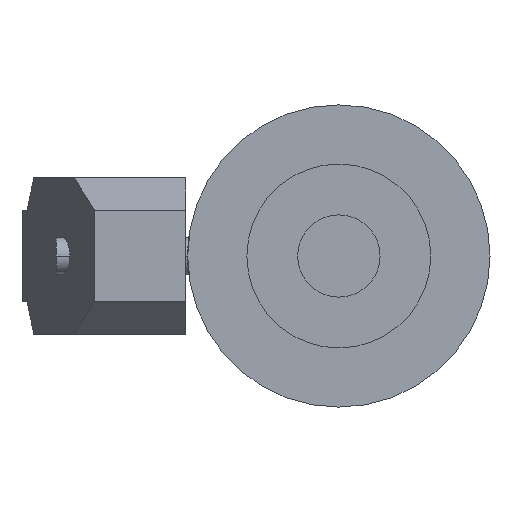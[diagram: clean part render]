
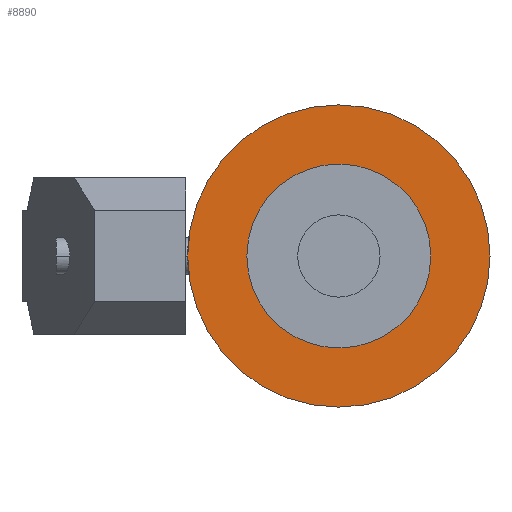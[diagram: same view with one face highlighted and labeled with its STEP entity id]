
A CAD part, left-side view. The second image highlights one B-rep face of the part: STEP entity #8890.
In plain terms, the highlighted planar face has unit normal (-1, 0, 0) as drawn and (1, 0, 0) by its records, which use the part's own axes.
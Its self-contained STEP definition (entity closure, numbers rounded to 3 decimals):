
#8300=CARTESIAN_POINT('',(-80.602,-16.488,0.));
#8310=VERTEX_POINT('',#8300);
#8500=CARTESIAN_POINT('',(-80.602,28.512,0.));
#8510=VERTEX_POINT('',#8500);
#8540=CARTESIAN_POINT('',(-80.602,6.012,0.));
#8550=DIRECTION('',(1.,0.,0.));
#8560=DIRECTION('',(0.,1.,0.));
#8570=AXIS2_PLACEMENT_3D('',#8540,#8550,#8560);
#8580=CIRCLE('',#8570,22.5);
#8590=EDGE_CURVE('',#8310,#8510,#8580,.T.);
#8640=CARTESIAN_POINT('',(-80.602,31.362,0.));
#8650=DIRECTION('',(-1.,0.,0.));
#8660=DIRECTION('',(0.,1.,0.));
#8670=AXIS2_PLACEMENT_3D('',#8640,#8650,#8660);
#8680=PLANE('',#8670);
#8690=CARTESIAN_POINT('',(-80.602,6.012,0.));
#8700=DIRECTION('',(1.,0.,0.));
#8710=DIRECTION('',(0.,1.,0.));
#8720=AXIS2_PLACEMENT_3D('',#8690,#8700,#8710);
#8730=CIRCLE('',#8720,41.5);
#8740=CARTESIAN_POINT('',(-80.602,47.512,0.));
#8750=VERTEX_POINT('',#8740);
#8760=CARTESIAN_POINT('',(-80.602,-35.488,
0.));
#8770=VERTEX_POINT('',#8760);
#8780=EDGE_CURVE('',#8750,#8770,#8730,.T.);
#8790=ORIENTED_EDGE('',*,*,#8780,.T.);
#8800=EDGE_CURVE('',#8770,#8750,#8730,.T.);
#8810=ORIENTED_EDGE('',*,*,#8800,.T.);
#8820=EDGE_LOOP('',(#8810,#8790));
#8830=FACE_OUTER_BOUND('',#8820,.T.);
#8840=EDGE_CURVE('',#8510,#8310,#8580,.T.);
#8850=ORIENTED_EDGE('',*,*,#8840,.F.);
#8860=ORIENTED_EDGE('',*,*,#8590,.F.);
#8870=EDGE_LOOP('',(#8860,#8850));
#8880=FACE_BOUND('',#8870,.T.);
#8890=ADVANCED_FACE('',(#8830,#8880),#8680,.F.);
